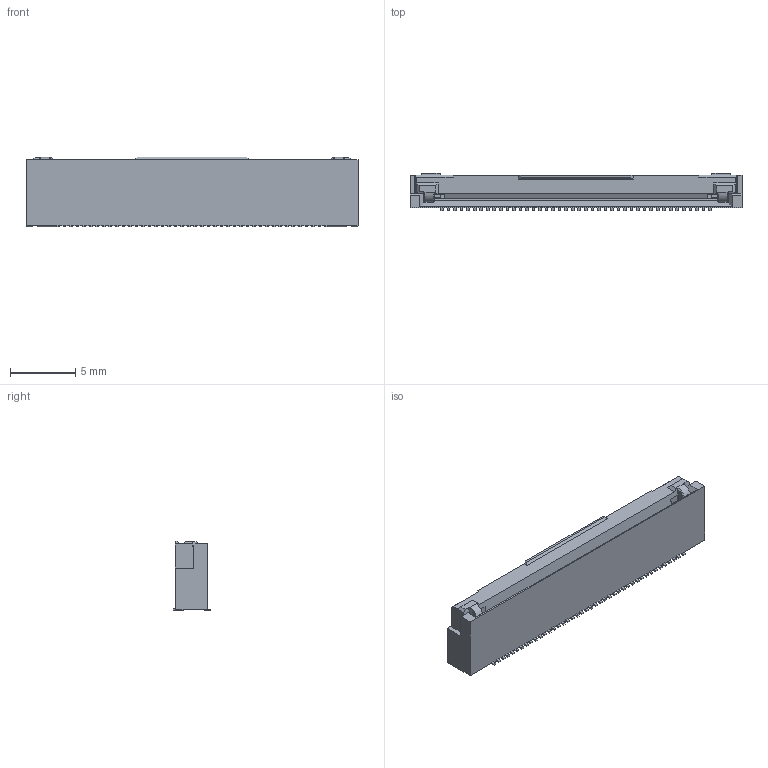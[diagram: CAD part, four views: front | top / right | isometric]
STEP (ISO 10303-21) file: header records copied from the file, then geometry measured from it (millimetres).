
FILE_DESCRIPTION (( 'STEP AP214' ), '1' );
FILE_NAME ('006817640000.STEP', '2022-11-30T08:31:09', ( '' ), ( '' ), 'SwSTEP 2.0', 'SolidWorks 2021', '' );
FILE_SCHEMA (( 'AUTOMOTIVE_DESIGN' ));
Length unit declared in the file: millimetre
Products named in the file (1): 006817640000
Bounding box: 25.4 x 2.9 x 5.32 mm (x, y, z)
Volume: 266.9 mm3; surface area: 664.7 mm2
Topology: 1 solids, 1 shells, 551 faces, 1631 edges, 1074 vertices
Faces by surface type: plane 463, cylinder 72, bspline 12, cone 4
Entity records: 19692 total; most frequent: CARTESIAN_POINT 5096, ORIENTED_EDGE 3262, DIRECTION 2709, EDGE_CURVE 1631, VECTOR 1389, LINE 1389, VERTEX_POINT 1074, AXIS2_PLACEMENT_3D 660
